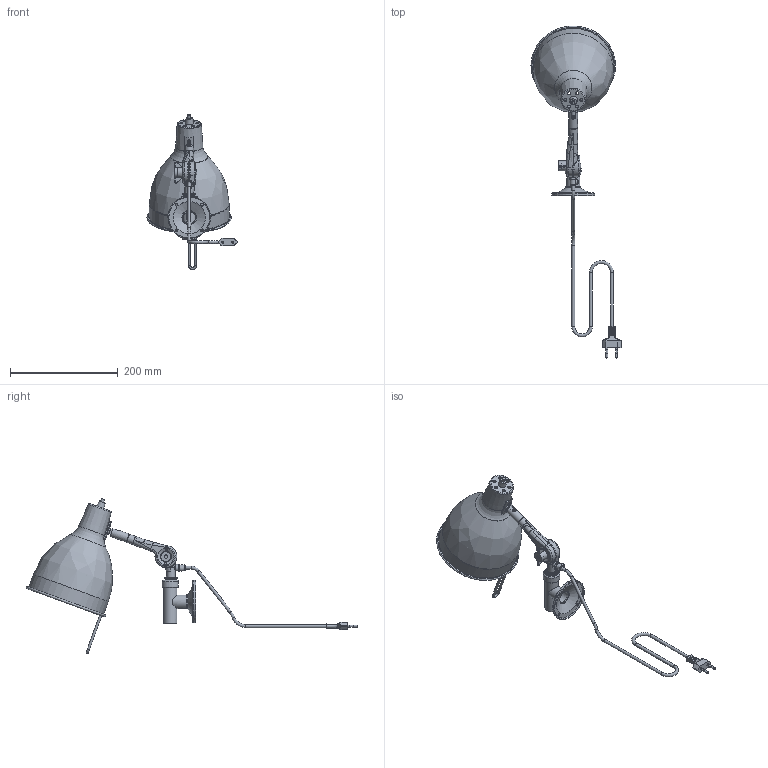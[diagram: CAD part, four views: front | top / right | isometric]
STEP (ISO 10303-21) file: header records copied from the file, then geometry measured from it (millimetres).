
FILE_DESCRIPTION( ( 'Unknown' ), '1' );
FILE_NAME( 'R:/Filer utan backup/step/Till hemsidan/PJ/PJ-71 Vägg en led.stp', 'Unknown', ( 'Unknown' ), ( 'Unknown' ), 'PSStep 14.0', 'Unknown', ' ' );
FILE_SCHEMA( ( 'AUTOMOTIVE_DESIGN { 1 0 10303 214 1 1 1 1 }' ) );
Length unit declared in the file: millimetre
Products named in the file (4): 40153-20 Mutter M25x1
Bounding box: 167.22 x 615.79 x 287.56 mm (x, y, z)
Volume: 191599.1 mm3; surface area: 305071.6 mm2
Topology: 4 solids, 5 shells, 569 faces, 1421 edges, 876 vertices
Faces by surface type: plane 278, cylinder 163, torus 42, bspline 39, cone 20, offset 14, sphere 13
Full cylindrical faces by diameter (mm): 2.459 x1, 3 x2, 3.3 x2, 3.5 x2, 4 x8, 5 x13, 5.5 x5, 6 x7, 6.647 x1, 7 x5, 7.2 x1, 8 x2, 11 x1, 11.917 x1, 13 x1, 14.6 x1, 16 x3, 17 x1, 19 x1, 21 x1, 23 x1, 25 x5, 25.6 x1, 26.2 x1, 27 x1, 30.5 x1, 34 x1, 37.6 x2, 41 x1, 77 x1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
Entity records: 25843 total; most frequent: CARTESIAN_POINT 9323, DIRECTION 2445, ORIENTED_EDGE 2364, EDGE_CURVE 1182, AXIS2_PLACEMENT_3D 980, VERTEX_POINT 796, EDGE_LOOP 780, FACE_OUTER_BOUND 660
